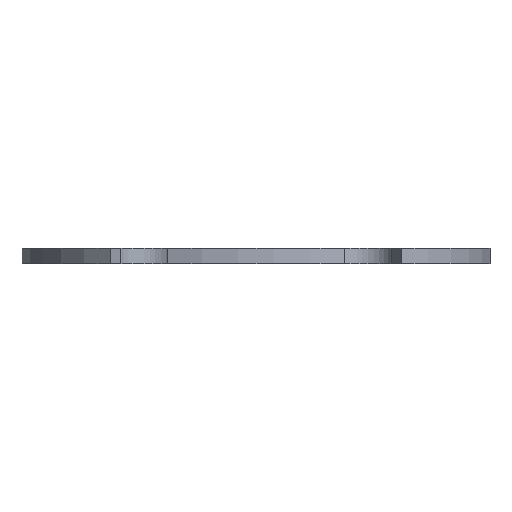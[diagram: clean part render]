
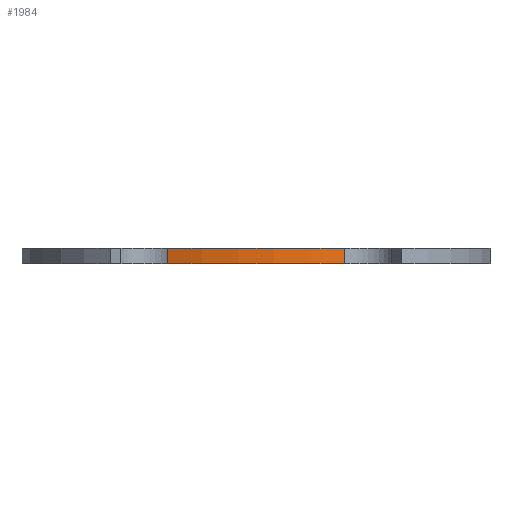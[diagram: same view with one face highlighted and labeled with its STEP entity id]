
A CAD part, front view. The second image highlights one B-rep face of the part: STEP entity #1984.
In plain terms, the highlighted cylindrical face has radius 150 mm (diameter 300 mm), a partial arc.
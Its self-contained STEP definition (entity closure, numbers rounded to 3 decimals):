
#71 = PLANE('',#72);
#72 = AXIS2_PLACEMENT_3D('',#73,#74,#75);
#73 = CARTESIAN_POINT('',(0.,0.,2.));
#74 = DIRECTION('',(0.,0.,1.));
#75 = DIRECTION('',(1.,0.,-0.));
#124 = PLANE('',#125);
#125 = AXIS2_PLACEMENT_3D('',#126,#127,#128);
#126 = CARTESIAN_POINT('',(0.,0.,12.));
#127 = DIRECTION('',(0.,0.,1.));
#128 = DIRECTION('',(1.,0.,-0.));
#293 = VERTEX_POINT('',#294);
#294 = CARTESIAN_POINT('',(-56.075,-139.124,12.));
#307 = PLANE('',#308);
#308 = AXIS2_PLACEMENT_3D('',#309,#310,#311);
#309 = CARTESIAN_POINT('',(-49.313,-127.413,1.));
#310 = DIRECTION('',(0.866,-0.5,0.));
#311 = DIRECTION('',(0.,0.,1.));
#318 = EDGE_CURVE('',#293,#319,#321,.T.);
#319 = VERTEX_POINT('',#320);
#320 = CARTESIAN_POINT('',(56.075,-139.124,12.));
#321 = SURFACE_CURVE('',#322,(#327,#334),.PCURVE_S1.);
#322 = CIRCLE('',#323,150.);
#323 = AXIS2_PLACEMENT_3D('',#324,#325,#326);
#324 = CARTESIAN_POINT('',(0.,0.,12.));
#325 = DIRECTION('',(0.,0.,1.));
#326 = DIRECTION('',(1.,0.,-0.));
#327 = PCURVE('',#124,#328);
#328 = DEFINITIONAL_REPRESENTATION('',(#329),#333);
#329 = CIRCLE('',#330,150.);
#330 = AXIS2_PLACEMENT_2D('',#331,#332);
#331 = CARTESIAN_POINT('',(0.,0.));
#332 = DIRECTION('',(1.,0.));
#333 = ( GEOMETRIC_REPRESENTATION_CONTEXT(2) 
PARAMETRIC_REPRESENTATION_CONTEXT() REPRESENTATION_CONTEXT('2D SPACE',''
  ) );
#334 = PCURVE('',#335,#340);
#335 = CYLINDRICAL_SURFACE('',#336,150.);
#336 = AXIS2_PLACEMENT_3D('',#337,#338,#339);
#337 = CARTESIAN_POINT('',(0.,0.,2.));
#338 = DIRECTION('',(0.,0.,1.));
#339 = DIRECTION('',(1.,0.,-0.));
#340 = DEFINITIONAL_REPRESENTATION('',(#341),#345);
#341 = LINE('',#342,#343);
#342 = CARTESIAN_POINT('',(0.,10.));
#343 = VECTOR('',#344,1.);
#344 = DIRECTION('',(1.,0.));
#345 = ( GEOMETRIC_REPRESENTATION_CONTEXT(2) 
PARAMETRIC_REPRESENTATION_CONTEXT() REPRESENTATION_CONTEXT('2D SPACE',''
  ) );
#362 = PLANE('',#363);
#363 = AXIS2_PLACEMENT_3D('',#364,#365,#366);
#364 = CARTESIAN_POINT('',(49.313,-127.413,1.));
#365 = DIRECTION('',(0.866,0.5,0.));
#366 = DIRECTION('',(0.,0.,1.));
#1150 = VERTEX_POINT('',#1151);
#1151 = CARTESIAN_POINT('',(-56.075,-139.124,2.));
#1170 = EDGE_CURVE('',#1150,#1171,#1173,.T.);
#1171 = VERTEX_POINT('',#1172);
#1172 = CARTESIAN_POINT('',(56.075,-139.124,2.));
#1173 = SURFACE_CURVE('',#1174,(#1179,#1186),.PCURVE_S1.);
#1174 = CIRCLE('',#1175,150.);
#1175 = AXIS2_PLACEMENT_3D('',#1176,#1177,#1178);
#1176 = CARTESIAN_POINT('',(0.,0.,2.));
#1177 = DIRECTION('',(0.,0.,1.));
#1178 = DIRECTION('',(1.,0.,-0.));
#1179 = PCURVE('',#71,#1180);
#1180 = DEFINITIONAL_REPRESENTATION('',(#1181),#1185);
#1181 = CIRCLE('',#1182,150.);
#1182 = AXIS2_PLACEMENT_2D('',#1183,#1184);
#1183 = CARTESIAN_POINT('',(0.,0.));
#1184 = DIRECTION('',(1.,0.));
#1185 = ( GEOMETRIC_REPRESENTATION_CONTEXT(2) 
PARAMETRIC_REPRESENTATION_CONTEXT() REPRESENTATION_CONTEXT('2D SPACE',''
  ) );
#1186 = PCURVE('',#335,#1187);
#1187 = DEFINITIONAL_REPRESENTATION('',(#1188),#1192);
#1188 = LINE('',#1189,#1190);
#1189 = CARTESIAN_POINT('',(0.,0.));
#1190 = VECTOR('',#1191,1.);
#1191 = DIRECTION('',(1.,0.));
#1192 = ( GEOMETRIC_REPRESENTATION_CONTEXT(2) 
PARAMETRIC_REPRESENTATION_CONTEXT() REPRESENTATION_CONTEXT('2D SPACE',''
  ) );
#1939 = EDGE_CURVE('',#1150,#293,#1940,.T.);
#1940 = SURFACE_CURVE('',#1941,(#1945,#1951),.PCURVE_S1.);
#1941 = LINE('',#1942,#1943);
#1942 = CARTESIAN_POINT('',(-56.075,-139.124,2.));
#1943 = VECTOR('',#1944,1.);
#1944 = DIRECTION('',(0.,0.,1.));
#1945 = PCURVE('',#307,#1946);
#1946 = DEFINITIONAL_REPRESENTATION('',(#1947),#1950);
#1947 = B_SPLINE_CURVE_WITH_KNOTS('',1,(#1948,#1949),.UNSPECIFIED.,.F.,
  .F.,(2,2),(0.,10.),.PIECEWISE_BEZIER_KNOTS.);
#1948 = CARTESIAN_POINT('',(1.,13.523));
#1949 = CARTESIAN_POINT('',(11.,13.523));
#1950 = ( GEOMETRIC_REPRESENTATION_CONTEXT(2) 
PARAMETRIC_REPRESENTATION_CONTEXT() REPRESENTATION_CONTEXT('2D SPACE',''
  ) );
#1951 = PCURVE('',#335,#1952);
#1952 = DEFINITIONAL_REPRESENTATION('',(#1953),#1956);
#1953 = B_SPLINE_CURVE_WITH_KNOTS('',1,(#1954,#1955),.UNSPECIFIED.,.F.,
  .F.,(2,2),(0.,10.),.PIECEWISE_BEZIER_KNOTS.);
#1954 = CARTESIAN_POINT('',(4.329,0.));
#1955 = CARTESIAN_POINT('',(4.329,10.));
#1956 = ( GEOMETRIC_REPRESENTATION_CONTEXT(2) 
PARAMETRIC_REPRESENTATION_CONTEXT() REPRESENTATION_CONTEXT('2D SPACE',''
  ) );
#1984 = ADVANCED_FACE('',(#1985),#335,.T.);
#1985 = FACE_BOUND('',#1986,.T.);
#1986 = EDGE_LOOP('',(#1987,#1988,#1989,#2008));
#1987 = ORIENTED_EDGE('',*,*,#1939,.F.);
#1988 = ORIENTED_EDGE('',*,*,#1170,.T.);
#1989 = ORIENTED_EDGE('',*,*,#1990,.T.);
#1990 = EDGE_CURVE('',#1171,#319,#1991,.T.);
#1991 = SURFACE_CURVE('',#1992,(#1996,#2002),.PCURVE_S1.);
#1992 = LINE('',#1993,#1994);
#1993 = CARTESIAN_POINT('',(56.075,-139.124,2.));
#1994 = VECTOR('',#1995,1.);
#1995 = DIRECTION('',(0.,0.,1.));
#1996 = PCURVE('',#335,#1997);
#1997 = DEFINITIONAL_REPRESENTATION('',(#1998),#2001);
#1998 = B_SPLINE_CURVE_WITH_KNOTS('',1,(#1999,#2000),.UNSPECIFIED.,.F.,
  .F.,(2,2),(0.,10.),.PIECEWISE_BEZIER_KNOTS.);
#1999 = CARTESIAN_POINT('',(5.096,0.));
#2000 = CARTESIAN_POINT('',(5.096,10.));
#2001 = ( GEOMETRIC_REPRESENTATION_CONTEXT(2) 
PARAMETRIC_REPRESENTATION_CONTEXT() REPRESENTATION_CONTEXT('2D SPACE',''
  ) );
#2002 = PCURVE('',#362,#2003);
#2003 = DEFINITIONAL_REPRESENTATION('',(#2004),#2007);
#2004 = B_SPLINE_CURVE_WITH_KNOTS('',1,(#2005,#2006),.UNSPECIFIED.,.F.,
  .F.,(2,2),(0.,10.),.PIECEWISE_BEZIER_KNOTS.);
#2005 = CARTESIAN_POINT('',(1.,13.523));
#2006 = CARTESIAN_POINT('',(11.,13.523));
#2007 = ( GEOMETRIC_REPRESENTATION_CONTEXT(2) 
PARAMETRIC_REPRESENTATION_CONTEXT() REPRESENTATION_CONTEXT('2D SPACE',''
  ) );
#2008 = ORIENTED_EDGE('',*,*,#318,.F.);
